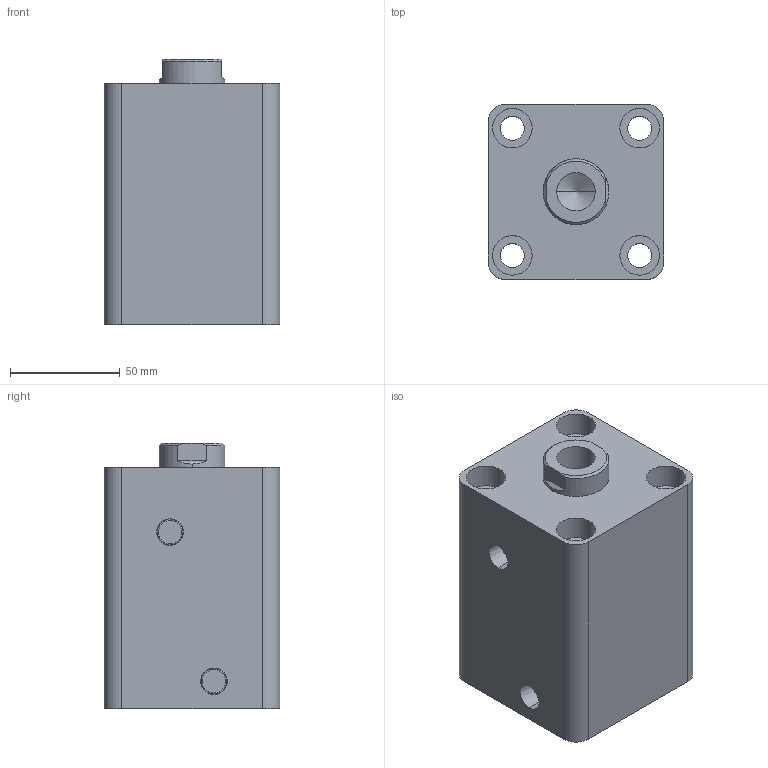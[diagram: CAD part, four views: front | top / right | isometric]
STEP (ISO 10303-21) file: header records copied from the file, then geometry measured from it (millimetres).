
FILE_DESCRIPTION (( 'STEP AP203' ), '1' );
FILE_NAME ('HTB-SD50-50N.STEP', '2019-10-07T07:09:42', ( '微软用户' ), ( '微软中国' ), 'SwSTEP 2.0', 'SolidWorks 2012', '' );
FILE_SCHEMA (( 'CONFIG_CONTROL_DESIGN' ));
Length unit declared in the file: millimetre
Products named in the file (3): HTB-SD50-50N; HTB-SD50-50N活塞杆; HTB-SD50-50掛极
Assembly tree (2 placements, depth 2):
  HTB-SD50-50N
    HTB-SD50-50掛极
    HTB-SD50-50N活塞杆
Bounding box: 80 x 80 x 121 mm (x, y, z)
Volume: 577959.3 mm3; surface area: 96768.2 mm2
Topology: 2 solids, 2 shells, 83 faces, 184 edges, 119 vertices
Faces by surface type: cylinder 42, plane 27, cone 8, torus 6
Entity records: 2655 total; most frequent: DIRECTION 456, CARTESIAN_POINT 417, ORIENTED_EDGE 364, AXIS2_PLACEMENT_3D 194, EDGE_CURVE 182, VERTEX_POINT 119, EDGE_LOOP 107, CIRCLE 106
